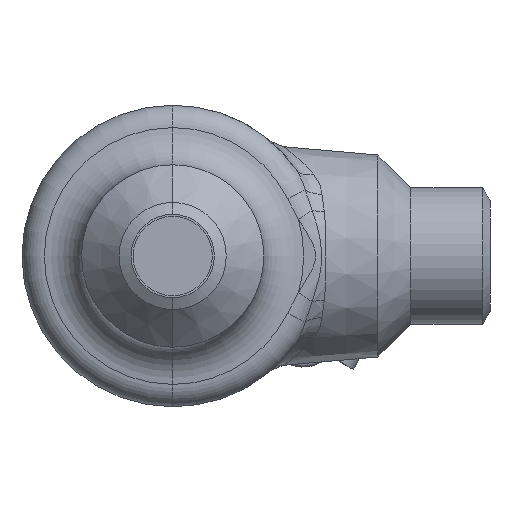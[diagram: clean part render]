
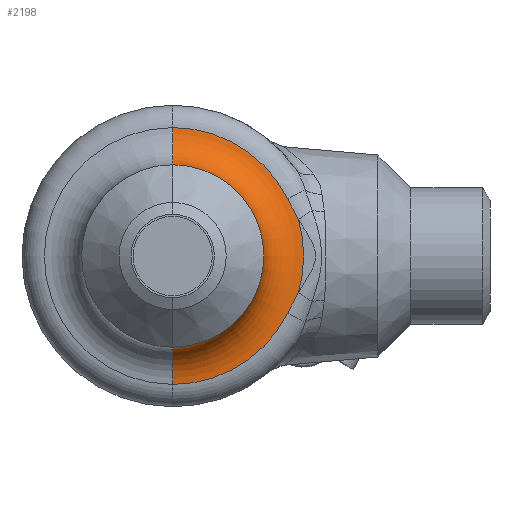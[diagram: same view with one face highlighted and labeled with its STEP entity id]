
A CAD part, front view. The second image highlights one B-rep face of the part: STEP entity #2198.
In plain terms, the highlighted toroidal (fillet/blend) face has major radius 16.5 mm and minor radius 5 mm.
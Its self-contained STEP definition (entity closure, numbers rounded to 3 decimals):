
#16404 = EDGE_CURVE ( 'NONE', #13805, #19128, #8083, .T. ) ;
#16703 = FACE_OUTER_BOUND ( 'NONE', #1988, .T. ) ;
#16704 = TOROIDAL_SURFACE ( 'NONE', #16705, 16.5, 5. ) ;
#16705 = AXIS2_PLACEMENT_3D ( 'NONE', #16706, #16707, #16708 ) ;
#16706 = CARTESIAN_POINT ( 'NONE',  ( 0., -57., 0. ) ) ;
#16707 = DIRECTION ( 'NONE',  ( 0., 1., 0. ) ) ;
#16708 = DIRECTION ( 'NONE',  ( 0., 0., 1. ) ) ;
#600 = EDGE_CURVE ( 'NONE', #11599, #2357, #12762, .T. ) ;
#17016 = CARTESIAN_POINT ( 'NONE',  ( 0., -52.01, -16.187 ) ) ;
#17205 = CARTESIAN_POINT ( 'NONE',  ( 14.484, -52.01, -7.229 ) ) ;
#17299 = CARTESIAN_POINT ( 'NONE',  ( 14.484, -52.01, 7.229 ) ) ;
#962 = ORIENTED_EDGE ( 'NONE', *, *, #600, .T. ) ;
#1000 = ORIENTED_EDGE ( 'NONE', *, *, #17916, .F. ) ;
#17420 = CIRCLE ( 'NONE', #17421, 16.188 ) ;
#17421 = AXIS2_PLACEMENT_3D ( 'NONE', #17422, #17423, #17424 ) ;
#17422 = CARTESIAN_POINT ( 'NONE',  ( 0., -52.01, 0. ) ) ;
#17423 = DIRECTION ( 'NONE',  ( 0., -1., 0. ) ) ;
#17424 = DIRECTION ( 'NONE',  ( 0., 0., -1. ) ) ;
#1065 = CIRCLE ( 'NONE', #1066, 11.5 ) ;
#1066 = AXIS2_PLACEMENT_3D ( 'NONE', #1067, #1068, #1069 ) ;
#1067 = CARTESIAN_POINT ( 'NONE',  ( 0., -57., 0. ) ) ;
#1068 = DIRECTION ( 'NONE',  ( 0., -1., 0. ) ) ;
#1069 = DIRECTION ( 'NONE',  ( 0., 0., 1. ) ) ;
#17698 = VERTEX_POINT ( 'NONE', #9238 ) ;
#1465 = ORIENTED_EDGE ( 'NONE', *, *, #9835, .F. ) ;
#1502 = EDGE_CURVE ( 'NONE', #2357, #14054, #14616, .T. ) ;
#17916 = EDGE_CURVE ( 'NONE', #17698, #14054, #9438, .T. ) ;
#1876 = ORIENTED_EDGE ( 'NONE', *, *, #1502, .T. ) ;
#1988 = EDGE_LOOP ( 'NONE', ( #1465, #962, #1876, #1000, #19460, #4093, #3579, #3064 ) ) ;
#2198 = ADVANCED_FACE ( 'NONE', ( #16703 ), #16704, .F. ) ;
#2357 = VERTEX_POINT ( 'NONE', #17205 ) ;
#19091 = EDGE_CURVE ( 'NONE', #17698, #11918, #10591, .T. ) ;
#19128 = VERTEX_POINT ( 'NONE', #10610 ) ;
#3064 = ORIENTED_EDGE ( 'NONE', *, *, #20799, .F. ) ;
#19460 = ORIENTED_EDGE ( 'NONE', *, *, #19091, .T. ) ;
#19838 = CARTESIAN_POINT ( 'NONE',  ( 0., -52.01, 16.187 ) ) ;
#19947 = CARTESIAN_POINT ( 'NONE',  ( 15.848, -52., -4.594 ) ) ;
#3579 = ORIENTED_EDGE ( 'NONE', *, *, #16404, .T. ) ;
#4093 = ORIENTED_EDGE ( 'NONE', *, *, #12159, .T. ) ;
#20799 = EDGE_CURVE ( 'NONE', #11412, #19128, #1065, .T. ) ;
#8083 = CIRCLE ( 'NONE', #8084, 5. ) ;
#8084 = AXIS2_PLACEMENT_3D ( 'NONE', #8085, #8092, #8093 ) ;
#8085 = CARTESIAN_POINT ( 'NONE',  ( 0., -57., 16.5 ) ) ;
#8092 = DIRECTION ( 'NONE',  ( -1., 0., 0. ) ) ;
#8093 = DIRECTION ( 'NONE',  ( 0., 0., 1. ) ) ;
#9238 = CARTESIAN_POINT ( 'NONE',  ( 15.848, -52., 4.594 ) ) ;
#9438 = CIRCLE ( 'NONE', #9439, 16.5 ) ;
#9439 = AXIS2_PLACEMENT_3D ( 'NONE', #9440, #9441, #9442 ) ;
#9440 = CARTESIAN_POINT ( 'NONE',  ( 0., -52., 0. ) ) ;
#9441 = DIRECTION ( 'NONE',  ( 0., 1., 0. ) ) ;
#9442 = DIRECTION ( 'NONE',  ( 0., 0., 1. ) ) ;
#9835 = EDGE_CURVE ( 'NONE', #11599, #11412, #12523, .T. ) ;
#10591 = B_SPLINE_CURVE_WITH_KNOTS ( 'NONE', 3,
 ( #10592, #10593, #10594, #10595 ),
 .UNSPECIFIED., .F., .F.,
 ( 4, 4 ),
 ( 0.013, 0.016 ),
 .UNSPECIFIED. ) ;
#10592 = CARTESIAN_POINT ( 'NONE',  ( 15.848, -52., 4.594 ) ) ;
#10593 = CARTESIAN_POINT ( 'NONE',  ( 15.397, -52., 5.474 ) ) ;
#10594 = CARTESIAN_POINT ( 'NONE',  ( 14.925, -52.01, 6.344 ) ) ;
#10595 = CARTESIAN_POINT ( 'NONE',  ( 14.484, -52.01, 7.229 ) ) ;
#10610 = CARTESIAN_POINT ( 'NONE',  ( 0., -57., 11.5 ) ) ;
#11412 = VERTEX_POINT ( 'NONE', #15277 ) ;
#11599 = VERTEX_POINT ( 'NONE', #17016 ) ;
#11918 = VERTEX_POINT ( 'NONE', #17299 ) ;
#12159 = EDGE_CURVE ( 'NONE', #11918, #13805, #17420, .T. ) ;
#12523 = CIRCLE ( 'NONE', #12543, 5. ) ;
#12543 = AXIS2_PLACEMENT_3D ( 'NONE', #12544, #12545, #12546 ) ;
#12544 = CARTESIAN_POINT ( 'NONE',  ( 0., -57., -16.5 ) ) ;
#12545 = DIRECTION ( 'NONE',  ( 1., 0., 0. ) ) ;
#12546 = DIRECTION ( 'NONE',  ( 0., 0., -1. ) ) ;
#12762 = CIRCLE ( 'NONE', #12763, 16.188 ) ;
#12763 = AXIS2_PLACEMENT_3D ( 'NONE', #12764, #12765, #12783 ) ;
#12764 = CARTESIAN_POINT ( 'NONE',  ( 0., -52.01, 0. ) ) ;
#12765 = DIRECTION ( 'NONE',  ( 0., -1., 0. ) ) ;
#12783 = DIRECTION ( 'NONE',  ( 0., 0., -1. ) ) ;
#13805 = VERTEX_POINT ( 'NONE', #19838 ) ;
#14054 = VERTEX_POINT ( 'NONE', #19947 ) ;
#14616 = B_SPLINE_CURVE_WITH_KNOTS ( 'NONE', 3,
 ( #14617, #14618, #14619, #14620 ),
 .UNSPECIFIED., .F., .F.,
 ( 4, 4 ),
 ( 0., 0.003 ),
 .UNSPECIFIED. ) ;
#14617 = CARTESIAN_POINT ( 'NONE',  ( 14.484, -52.01, -7.229 ) ) ;
#14618 = CARTESIAN_POINT ( 'NONE',  ( 14.925, -52.01, -6.344 ) ) ;
#14619 = CARTESIAN_POINT ( 'NONE',  ( 15.397, -52., -5.474 ) ) ;
#14620 = CARTESIAN_POINT ( 'NONE',  ( 15.848, -52., -4.594 ) ) ;
#15277 = CARTESIAN_POINT ( 'NONE',  ( 0., -57., -11.5 ) ) ;
